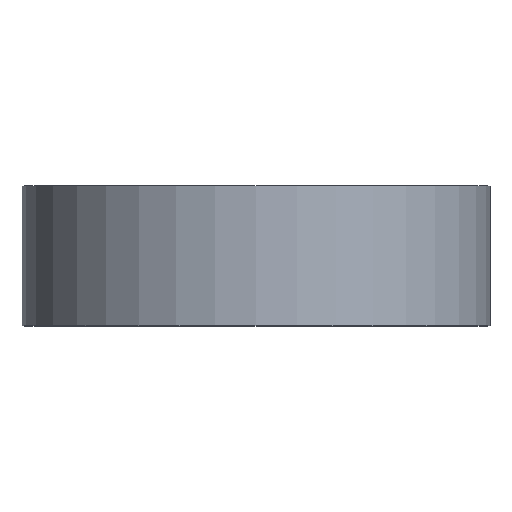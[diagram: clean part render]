
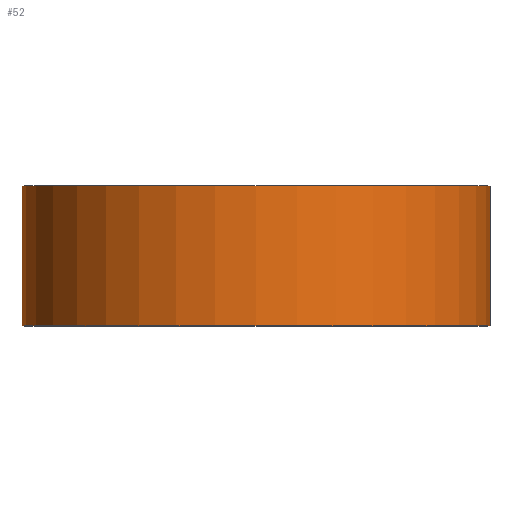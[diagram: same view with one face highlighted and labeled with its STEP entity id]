
A CAD part, top view. The second image highlights one B-rep face of the part: STEP entity #52.
In plain terms, the highlighted cylindrical face has radius 12.125 mm (diameter 24.25 mm), a full revolution.
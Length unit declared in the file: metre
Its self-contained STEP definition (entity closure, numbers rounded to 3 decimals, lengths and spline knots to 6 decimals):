
#14=ORIENTED_EDGE('',*,*,#22,.F.);
#15=ORIENTED_EDGE('',*,*,#23,.T.);
#22=EDGE_CURVE('',#26,#26,#30,.T.);
#23=EDGE_CURVE('',#27,#27,#31,.T.);
#26=VERTEX_POINT('',#98);
#27=VERTEX_POINT('',#100);
#30=CIRCLE('',#70,0.012125);
#31=CIRCLE('',#71,0.012125);
#34=EDGE_LOOP('',(#14));
#35=EDGE_LOOP('',(#15));
#42=FACE_BOUND('',#34,.T.);
#43=FACE_BOUND('',#35,.T.);
#50=CYLINDRICAL_SURFACE('',#69,0.012125);
#52=ADVANCED_FACE('',(#42,#43),#50,.T.);
#69=AXIS2_PLACEMENT_3D('',#96,#79,#80);
#70=AXIS2_PLACEMENT_3D('',#97,#81,#82);
#71=AXIS2_PLACEMENT_3D('',#99,#83,#84);
#79=DIRECTION('',(0.,1.,0.));
#80=DIRECTION('',(0.,0.,1.));
#81=DIRECTION('',(0.,-1.,0.));
#82=DIRECTION('',(0.,0.,-1.));
#83=DIRECTION('',(0.,-1.,0.));
#84=DIRECTION('',(0.,0.,-1.));
#96=CARTESIAN_POINT('',(0.,-0.00725,0.));
#97=CARTESIAN_POINT('',(0.,-0.00725,0.));
#98=CARTESIAN_POINT('',(0.,-0.00725,-0.012125));
#99=CARTESIAN_POINT('',(0.,0.,0.));
#100=CARTESIAN_POINT('',(0.,0.,-0.012125));
